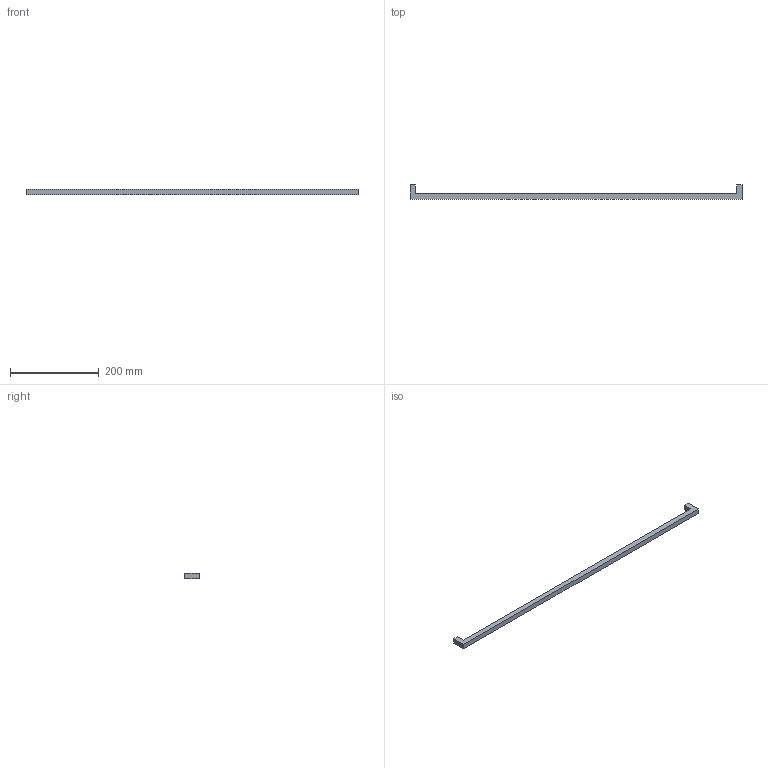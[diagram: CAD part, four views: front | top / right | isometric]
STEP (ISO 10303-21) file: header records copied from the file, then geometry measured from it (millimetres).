
FILE_DESCRIPTION( ( 'STEP AP214' ), '1' );
FILE_NAME( 'C:/Users/kulkarni/Desktop/Apurva/2015/Prodecor_2016/Cadfiles/same as files/Anzio/9207352.stp', ' ', ( ' ' ), ( ' ' ), 'PSStep 15.0.47', 'PARTsolutions', ' ' );
FILE_SCHEMA( ( 'AUTOMOTIVE_DESIGN { 1 0 10303 214 1 1 1 1 }' ) );
Length unit declared in the file: millimetre
Products named in the file (1): _9207352
Bounding box: 748 x 32 x 12 mm (x, y, z)
Volume: 113220.7 mm3; surface area: 38363.3 mm2
Topology: 1 solids, 1 shells, 14 faces, 30 edges, 20 vertices
Faces by surface type: plane 12, cylinder 2
Full cylindrical faces by diameter (mm): 4 x2
Entity records: 496 total; most frequent: CARTESIAN_POINT 63, DIRECTION 62, ORIENTED_EDGE 56, EDGE_CURVE 28, LINE 24, VECTOR 24, VERTEX_POINT 20, AXIS2_PLACEMENT_3D 19
